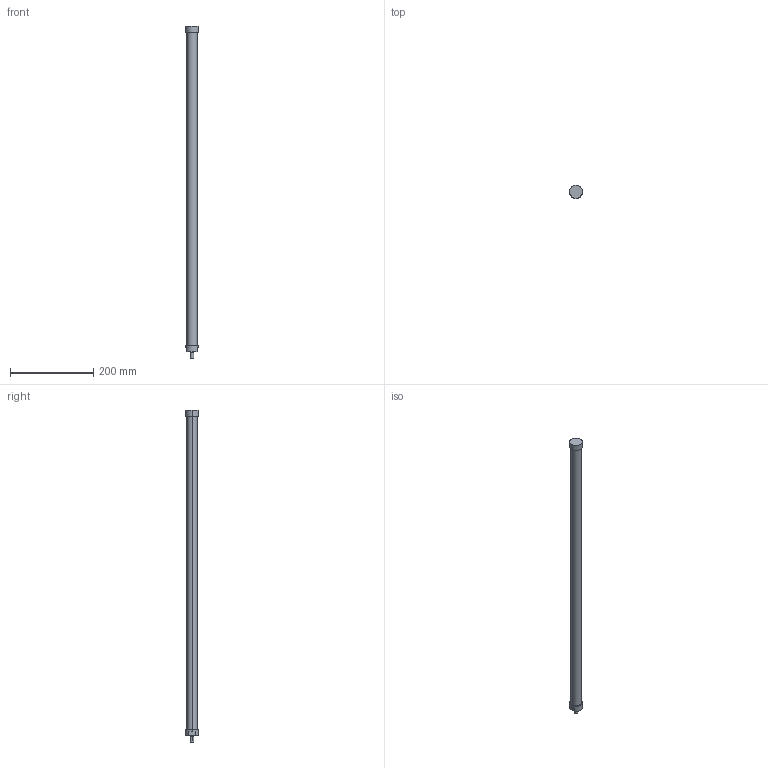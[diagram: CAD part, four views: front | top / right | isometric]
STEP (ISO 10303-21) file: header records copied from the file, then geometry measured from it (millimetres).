
FILE_DESCRIPTION(('STEP AP214'),'1');
FILE_NAME('ETT-R050M794.stp','2015-02-02T15:21:37',(' '),(' '),'Spatial InterOp 3D',' ',' ');
FILE_SCHEMA(('automotive_design'));
Length unit declared in the file: metre
Products named in the file (2): 1; 2
Bounding box: 31 x 31 x 799 mm (x, y, z)
Volume: 392943.4 mm3; surface area: 64812.2 mm2
Topology: 1 solids, 4 shells, 20 faces, 48 edges, 36 vertices
Faces by surface type: cylinder 10, plane 10
Entity records: 812 total; most frequent: DIRECTION 120, CARTESIAN_POINT 106, ORIENTED_EDGE 84, AXIS2_PLACEMENT_3D 50, EDGE_CURVE 48, VERTEX_POINT 36, CIRCLE 28, EDGE_LOOP 24
